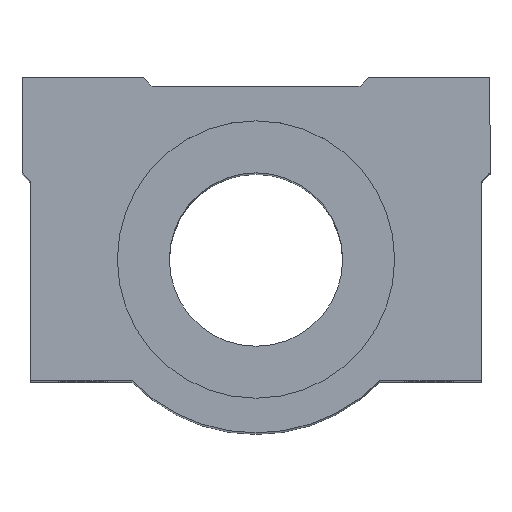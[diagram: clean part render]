
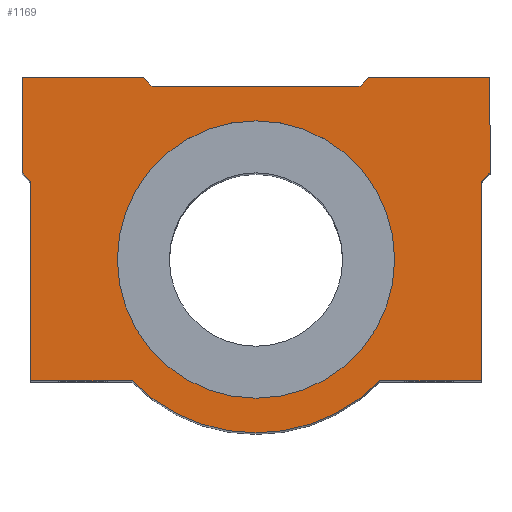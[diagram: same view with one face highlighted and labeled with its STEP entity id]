
A CAD part, top view. The second image highlights one B-rep face of the part: STEP entity #1169.
In plain terms, the highlighted planar face has unit normal (0, 0, 1).
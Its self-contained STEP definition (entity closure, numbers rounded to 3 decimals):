
#91=CARTESIAN_POINT('',(-16.709,4.198,104.));
#92=VERTEX_POINT('',#91);
#101=CARTESIAN_POINT('',(15.291,4.198,104.));
#102=VERTEX_POINT('',#101);
#103=CARTESIAN_POINT('',(-0.709,4.198,104.));
#104=DIRECTION('',(0.0,0.0,-1.0));
#105=DIRECTION('',(-1.0,0.0,0.0));
#106=AXIS2_PLACEMENT_3D('',#103,#104,#105);
#107=CIRCLE('',#106,16.0);
#108=EDGE_CURVE('',#102,#92,#107,.T.);
#640=CARTESIAN_POINT('',(-0.709,4.198,104.));
#641=DIRECTION('',(0.0,0.0,-1.0));
#642=DIRECTION('',(-1.0,0.0,0.0));
#643=AXIS2_PLACEMENT_3D('',#640,#641,#642);
#644=CIRCLE('',#643,16.0);
#645=EDGE_CURVE('',#92,#102,#644,.T.);
#780=CARTESIAN_POINT('',(26.291,14.198,104.));
#781=VERTEX_POINT('',#780);
#782=CARTESIAN_POINT('',(25.291,13.198,104.));
#783=VERTEX_POINT('',#782);
#784=CARTESIAN_POINT('',(26.291,14.198,104.));
#785=DIRECTION('',(-0.707,-0.707,0.0));
#786=VECTOR('',#785,1.414);
#787=LINE('',#784,#786);
#788=EDGE_CURVE('',#781,#783,#787,.T.);
#811=CARTESIAN_POINT('',(25.291,-9.802,104.));
#812=VERTEX_POINT('',#811);
#813=CARTESIAN_POINT('',(25.291,13.198,104.));
#814=DIRECTION('',(0.0,-1.0,0.0));
#815=VECTOR('',#814,23.);
#816=LINE('',#813,#815);
#817=EDGE_CURVE('',#783,#812,#816,.T.);
#835=CARTESIAN_POINT('',(13.574,-9.802,104.));
#836=VERTEX_POINT('',#835);
#837=CARTESIAN_POINT('',(25.291,-9.802,104.));
#838=DIRECTION('',(-1.0,0.0,0.0));
#839=VECTOR('',#838,11.717);
#840=LINE('',#837,#839);
#841=EDGE_CURVE('',#812,#836,#840,.T.);
#867=CARTESIAN_POINT('',(-14.992,-9.802,104.));
#868=VERTEX_POINT('',#867);
#869=CARTESIAN_POINT('',(-0.709,4.198,104.));
#870=DIRECTION('',(0.0,0.0,-1.0));
#871=DIRECTION('',(0.714,0.7,0.0));
#872=AXIS2_PLACEMENT_3D('',#869,#870,#871);
#873=CIRCLE('',#872,20.0);
#874=EDGE_CURVE('',#836,#868,#873,.T.);
#892=CARTESIAN_POINT('',(-26.709,-9.802,104.));
#893=VERTEX_POINT('',#892);
#894=CARTESIAN_POINT('',(-14.992,-9.802,104.));
#895=DIRECTION('',(-1.0,0.0,0.0));
#896=VECTOR('',#895,11.717);
#897=LINE('',#894,#896);
#898=EDGE_CURVE('',#868,#893,#897,.T.);
#924=CARTESIAN_POINT('',(-26.709,13.198,104.));
#925=VERTEX_POINT('',#924);
#926=CARTESIAN_POINT('',(-26.709,-9.802,104.));
#927=DIRECTION('',(0.0,1.0,0.0));
#928=VECTOR('',#927,23.0);
#929=LINE('',#926,#928);
#930=EDGE_CURVE('',#893,#925,#929,.T.);
#948=CARTESIAN_POINT('',(-27.709,14.198,104.));
#949=VERTEX_POINT('',#948);
#950=CARTESIAN_POINT('',(-26.709,13.198,104.));
#951=DIRECTION('',(-0.707,0.707,0.0));
#952=VECTOR('',#951,1.414);
#953=LINE('',#950,#952);
#954=EDGE_CURVE('',#925,#949,#953,.T.);
#972=CARTESIAN_POINT('',(-27.709,25.198,104.));
#973=VERTEX_POINT('',#972);
#974=CARTESIAN_POINT('',(-27.709,14.198,104.));
#975=DIRECTION('',(0.0,1.0,0.0));
#976=VECTOR('',#975,11.);
#977=LINE('',#974,#976);
#978=EDGE_CURVE('',#949,#973,#977,.T.);
#996=CARTESIAN_POINT('',(-13.709,25.198,104.));
#997=VERTEX_POINT('',#996);
#998=CARTESIAN_POINT('',(-27.709,25.198,104.));
#999=DIRECTION('',(1.0,0.0,0.0));
#1000=VECTOR('',#999,14.0);
#1001=LINE('',#998,#1000);
#1002=EDGE_CURVE('',#973,#997,#1001,.T.);
#1028=CARTESIAN_POINT('',(-12.709,24.198,104.));
#1029=VERTEX_POINT('',#1028);
#1030=CARTESIAN_POINT('',(-13.709,25.198,104.));
#1031=DIRECTION('',(0.707,-0.707,0.0));
#1032=VECTOR('',#1031,1.414);
#1033=LINE('',#1030,#1032);
#1034=EDGE_CURVE('',#997,#1029,#1033,.T.);
#1052=CARTESIAN_POINT('',(11.291,24.198,104.));
#1053=VERTEX_POINT('',#1052);
#1054=CARTESIAN_POINT('',(-12.709,24.198,104.));
#1055=DIRECTION('',(1.0,0.0,0.0));
#1056=VECTOR('',#1055,24.);
#1057=LINE('',#1054,#1056);
#1058=EDGE_CURVE('',#1029,#1053,#1057,.T.);
#1076=CARTESIAN_POINT('',(12.291,25.198,104.));
#1077=VERTEX_POINT('',#1076);
#1078=CARTESIAN_POINT('',(11.291,24.198,104.));
#1079=DIRECTION('',(0.707,0.707,0.0));
#1080=VECTOR('',#1079,1.414);
#1081=LINE('',#1078,#1080);
#1082=EDGE_CURVE('',#1053,#1077,#1081,.T.);
#1100=CARTESIAN_POINT('',(26.291,25.198,104.));
#1101=VERTEX_POINT('',#1100);
#1102=CARTESIAN_POINT('',(12.291,25.198,104.));
#1103=DIRECTION('',(1.0,0.0,0.0));
#1104=VECTOR('',#1103,14.);
#1105=LINE('',#1102,#1104);
#1106=EDGE_CURVE('',#1077,#1101,#1105,.T.);
#1132=CARTESIAN_POINT('',(26.291,25.198,104.));
#1133=DIRECTION('',(0.0,-1.0,0.0));
#1134=VECTOR('',#1133,11.);
#1135=LINE('',#1132,#1134);
#1136=EDGE_CURVE('',#1101,#781,#1135,.T.);
#1144=CARTESIAN_POINT('',(-0.709,6.918,104.));
#1145=DIRECTION('',(0.0,0.0,1.0));
#1146=DIRECTION('',(1.0,0.0,0.0));
#1147=AXIS2_PLACEMENT_3D('',#1144,#1145,#1146);
#1148=PLANE('',#1147);
#1149=ORIENTED_EDGE('',*,*,#788,.F.);
#1150=ORIENTED_EDGE('',*,*,#1136,.F.);
#1151=ORIENTED_EDGE('',*,*,#1106,.F.);
#1152=ORIENTED_EDGE('',*,*,#1082,.F.);
#1153=ORIENTED_EDGE('',*,*,#1058,.F.);
#1154=ORIENTED_EDGE('',*,*,#1034,.F.);
#1155=ORIENTED_EDGE('',*,*,#1002,.F.);
#1156=ORIENTED_EDGE('',*,*,#978,.F.);
#1157=ORIENTED_EDGE('',*,*,#954,.F.);
#1158=ORIENTED_EDGE('',*,*,#930,.F.);
#1159=ORIENTED_EDGE('',*,*,#898,.F.);
#1160=ORIENTED_EDGE('',*,*,#874,.F.);
#1161=ORIENTED_EDGE('',*,*,#841,.F.);
#1162=ORIENTED_EDGE('',*,*,#817,.F.);
#1163=EDGE_LOOP('',(#1149,#1150,#1151,#1152,#1153,#1154,#1155,#1156,#1157,#1158,#1159,#1160,#1161,#1162));
#1164=FACE_OUTER_BOUND('',#1163,.T.);
#1165=ORIENTED_EDGE('',*,*,#108,.T.);
#1166=ORIENTED_EDGE('',*,*,#645,.T.);
#1167=EDGE_LOOP('',(#1165,#1166));
#1168=FACE_BOUND('',#1167,.T.);
#1169=ADVANCED_FACE('',(#1164,#1168),#1148,.T.);
